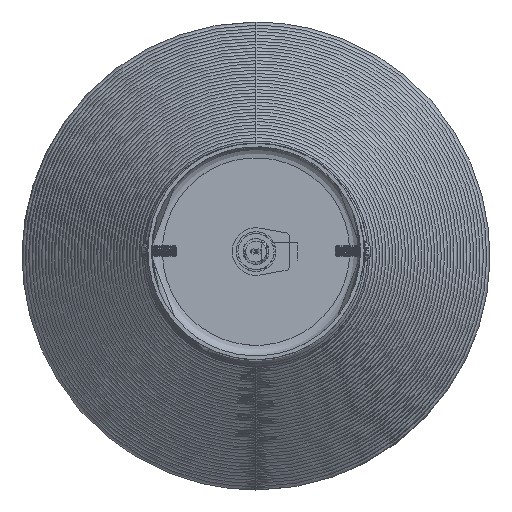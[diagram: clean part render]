
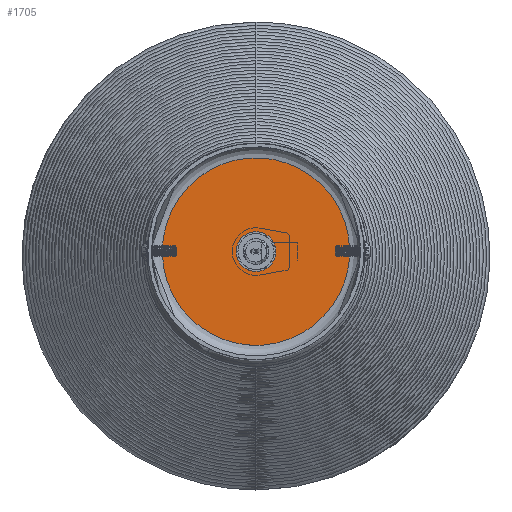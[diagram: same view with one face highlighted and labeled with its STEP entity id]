
A CAD part, top view. The second image highlights one B-rep face of the part: STEP entity #1705.
In plain terms, the highlighted planar face has unit normal (0, 0, 1).
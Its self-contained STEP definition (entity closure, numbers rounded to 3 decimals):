
#142=FACE_BOUND('',#5450,.T.);
#1705=ADVANCED_FACE('',(#3558,#142),#26218,.T.);
#3558=FACE_OUTER_BOUND('',#5449,.T.);
#5449=EDGE_LOOP('',(#13051,#13052));
#5450=EDGE_LOOP('',(#13053,#13054));
#13051=ORIENTED_EDGE('',*,*,#18195,.T.);
#13052=ORIENTED_EDGE('',*,*,#18162,.T.);
#13053=ORIENTED_EDGE('',*,*,#18197,.T.);
#13054=ORIENTED_EDGE('',*,*,#18160,.T.);
#18160=EDGE_CURVE('',#25429,#25428,#21264,.T.);
#18162=EDGE_CURVE('',#25431,#25432,#21265,.T.);
#18195=EDGE_CURVE('',#25432,#25431,#21282,.T.);
#18197=EDGE_CURVE('',#25428,#25429,#21284,.T.);
#21264=(
BOUNDED_CURVE()
B_SPLINE_CURVE(2,(#211692,#211693,#211694,#211695,#211696),
 .UNSPECIFIED.,.F.,.F.)
B_SPLINE_CURVE_WITH_KNOTS((3,2,3),(-17.279,-8.639,
0.),.UNSPECIFIED.)
CURVE()
GEOMETRIC_REPRESENTATION_ITEM()
RATIONAL_B_SPLINE_CURVE((1.,0.707,1.,0.707,1.))
REPRESENTATION_ITEM('')
);
#21265=(
BOUNDED_CURVE()
B_SPLINE_CURVE(2,(#211699,#211700,#211701,#211702,#211703),
 .UNSPECIFIED.,.F.,.F.)
B_SPLINE_CURVE_WITH_KNOTS((3,2,3),(-81.681,-40.841,
0.),.UNSPECIFIED.)
CURVE()
GEOMETRIC_REPRESENTATION_ITEM()
RATIONAL_B_SPLINE_CURVE((1.,0.707,1.,0.707,1.))
REPRESENTATION_ITEM('')
);
#21282=(
BOUNDED_CURVE()
B_SPLINE_CURVE(2,(#211968,#211969,#211970,#211971,#211972),
 .UNSPECIFIED.,.F.,.F.)
B_SPLINE_CURVE_WITH_KNOTS((3,2,3),(-81.681,-40.841,
0.),.UNSPECIFIED.)
CURVE()
GEOMETRIC_REPRESENTATION_ITEM()
RATIONAL_B_SPLINE_CURVE((1.,0.707,1.,0.707,1.))
REPRESENTATION_ITEM('')
);
#21284=(
BOUNDED_CURVE()
B_SPLINE_CURVE(2,(#211978,#211979,#211980,#211981,#211982),
 .UNSPECIFIED.,.F.,.F.)
B_SPLINE_CURVE_WITH_KNOTS((3,2,3),(-17.279,-8.639,
0.),.UNSPECIFIED.)
CURVE()
GEOMETRIC_REPRESENTATION_ITEM()
RATIONAL_B_SPLINE_CURVE((1.,0.707,1.,0.707,1.))
REPRESENTATION_ITEM('')
);
#25428=VERTEX_POINT('',#211641);
#25429=VERTEX_POINT('',#211642);
#25431=VERTEX_POINT('',#211644);
#25432=VERTEX_POINT('',#211645);
#26218=PLANE('',#28041);
#28041=AXIS2_PLACEMENT_3D('',#211574,#28423,$);
#28423=DIRECTION('',(0.,0.,1.));
#211574=CARTESIAN_POINT('',(-31.2,-32.315,772.3));
#211641=CARTESIAN_POINT('',(0.,4.385,772.3));
#211642=CARTESIAN_POINT('',(0.,-6.615,772.3));
#211644=CARTESIAN_POINT('',(-26.,-1.115,772.3));
#211645=CARTESIAN_POINT('',(26.,-1.115,772.3));
#211692=CARTESIAN_POINT('',(0.,-6.615,772.3));
#211693=CARTESIAN_POINT('',(-5.5,-6.615,772.3));
#211694=CARTESIAN_POINT('',(-5.5,-1.115,772.3));
#211695=CARTESIAN_POINT('',(-5.5,4.385,772.3));
#211696=CARTESIAN_POINT('',(0.,4.385,772.3));
#211699=CARTESIAN_POINT('',(-26.,-1.115,772.3));
#211700=CARTESIAN_POINT('',(-26.,-27.115,772.3));
#211701=CARTESIAN_POINT('',(0.,-27.115,772.3));
#211702=CARTESIAN_POINT('',(26.,-27.115,772.3));
#211703=CARTESIAN_POINT('',(26.,-1.115,772.3));
#211968=CARTESIAN_POINT('',(26.,-1.115,772.3));
#211969=CARTESIAN_POINT('',(26.,24.885,772.3));
#211970=CARTESIAN_POINT('',(0.,24.885,772.3));
#211971=CARTESIAN_POINT('',(-26.,24.885,772.3));
#211972=CARTESIAN_POINT('',(-26.,-1.115,772.3));
#211978=CARTESIAN_POINT('',(0.,4.385,772.3));
#211979=CARTESIAN_POINT('',(5.5,4.385,772.3));
#211980=CARTESIAN_POINT('',(5.5,-1.115,772.3));
#211981=CARTESIAN_POINT('',(5.5,-6.615,772.3));
#211982=CARTESIAN_POINT('',(0.,-6.615,772.3));
